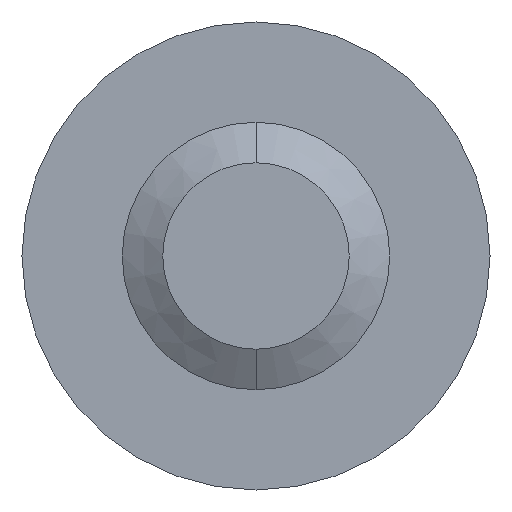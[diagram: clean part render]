
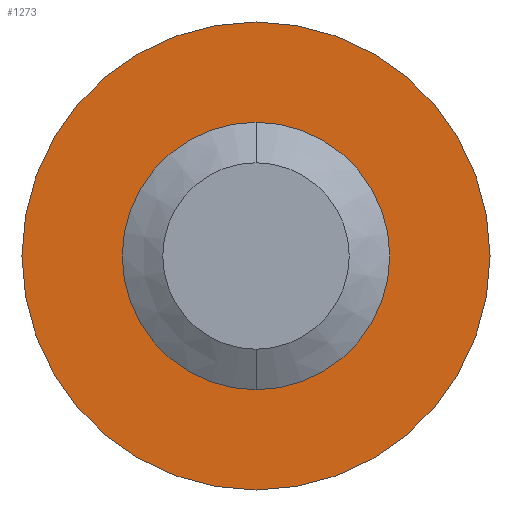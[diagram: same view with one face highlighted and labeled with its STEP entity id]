
A CAD part, front view. The second image highlights one B-rep face of the part: STEP entity #1273.
In plain terms, the highlighted planar face has unit normal (0, -1, 0).
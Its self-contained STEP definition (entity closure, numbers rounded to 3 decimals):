
#24 = CARTESIAN_POINT ( 'NONE',  ( 0., 16., 0. ) ) ;
#45 = PLANE ( 'NONE',  #2656 ) ;
#130 = AXIS2_PLACEMENT_3D ( 'NONE', #2796, #656, #1621 ) ;
#137 = ORIENTED_EDGE ( 'NONE', *, *, #1528, .T. ) ;
#223 = CIRCLE ( 'NONE', #2706, 3.5 ) ;
#235 = DIRECTION ( 'NONE',  ( 0., 0., 1. ) ) ;
#238 = CIRCLE ( 'NONE', #130, 2. ) ;
#249 = EDGE_LOOP ( 'NONE', ( #2206, #137 ) ) ;
#259 = DIRECTION ( 'NONE',  ( 0., 1., 0. ) ) ;
#588 = FACE_BOUND ( 'NONE', #249, .T. ) ;
#626 = EDGE_CURVE ( 'NONE', #1303, #2468, #223, .T. ) ;
#656 = DIRECTION ( 'NONE',  ( 0., 1., 0. ) ) ;
#702 = CARTESIAN_POINT ( 'NONE',  ( 0., 16., 0. ) ) ;
#730 = ORIENTED_EDGE ( 'NONE', *, *, #2268, .F. ) ;
#870 = CIRCLE ( 'NONE', #2625, 3.5 ) ;
#1002 = CARTESIAN_POINT ( 'NONE',  ( 0., 16., 0. ) ) ;
#1007 = EDGE_CURVE ( 'NONE', #1932, #2690, #238, .T. ) ;
#1044 = EDGE_LOOP ( 'NONE', ( #3072, #730 ) ) ;
#1047 = FACE_OUTER_BOUND ( 'NONE', #1044, .T. ) ;
#1273 = ADVANCED_FACE ( 'NONE', ( #1047, #588 ), #45, .F. ) ;
#1303 = VERTEX_POINT ( 'NONE', #1563 ) ;
#1407 = DIRECTION ( 'NONE',  ( 0., 1., 0. ) ) ;
#1475 = CARTESIAN_POINT ( 'NONE',  ( 0., 16., 2. ) ) ;
#1528 = EDGE_CURVE ( 'NONE', #2690, #1932, #2113, .T. ) ;
#1563 = CARTESIAN_POINT ( 'NONE',  ( 0., 16., -3.5 ) ) ;
#1621 = DIRECTION ( 'NONE',  ( 0., 0., 1. ) ) ;
#1625 = CARTESIAN_POINT ( 'NONE',  ( 0., 16., 3.5 ) ) ;
#1670 = CARTESIAN_POINT ( 'NONE',  ( 0., 16., -2. ) ) ;
#1677 = DIRECTION ( 'NONE',  ( 0., 0., 1. ) ) ;
#1869 = AXIS2_PLACEMENT_3D ( 'NONE', #2643, #1407, #235 ) ;
#1932 = VERTEX_POINT ( 'NONE', #1670 ) ;
#1954 = DIRECTION ( 'NONE',  ( 0., 1., 0. ) ) ;
#2113 = CIRCLE ( 'NONE', #1869, 2. ) ;
#2206 = ORIENTED_EDGE ( 'NONE', *, *, #1007, .T. ) ;
#2268 = EDGE_CURVE ( 'NONE', #2468, #1303, #870, .T. ) ;
#2293 = DIRECTION ( 'NONE',  ( 0., 0., 1. ) ) ;
#2328 = DIRECTION ( 'NONE',  ( 0., 1., 0. ) ) ;
#2468 = VERTEX_POINT ( 'NONE', #1625 ) ;
#2625 = AXIS2_PLACEMENT_3D ( 'NONE', #702, #2328, #2293 ) ;
#2643 = CARTESIAN_POINT ( 'NONE',  ( 0., 16., 0. ) ) ;
#2656 = AXIS2_PLACEMENT_3D ( 'NONE', #1002, #1954, #2898 ) ;
#2690 = VERTEX_POINT ( 'NONE', #1475 ) ;
#2706 = AXIS2_PLACEMENT_3D ( 'NONE', #24, #259, #1677 ) ;
#2796 = CARTESIAN_POINT ( 'NONE',  ( 0., 16., 0. ) ) ;
#2898 = DIRECTION ( 'NONE',  ( 0., 0., 1. ) ) ;
#3072 = ORIENTED_EDGE ( 'NONE', *, *, #626, .F. ) ;
